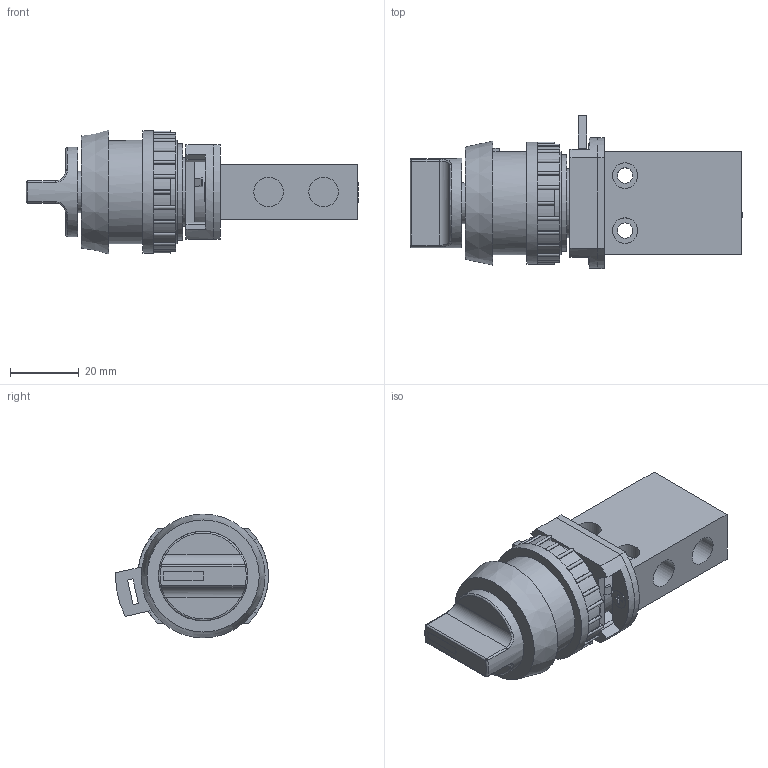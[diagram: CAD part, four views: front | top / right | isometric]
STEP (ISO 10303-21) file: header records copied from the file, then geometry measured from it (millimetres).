
FILE_DESCRIPTION (( 'STEP AP214' ), '1' );
FILE_NAME ('18-T-30-013---T-28-311_Airtec.step', '2018-11-15T13:14:36', ( '' ), ( '' ), 'SwSTEP 2.0', 'SolidWorks 2010', '' );
FILE_SCHEMA (( 'AUTOMOTIVE_DESIGN' ));
Length unit declared in the file: millimetre
Products named in the file (3): 18-T-30-013-Airtec; T-28-311_161115; 18-T-30-013---T-28-311_Airtec
Assembly tree (2 placements, depth 2):
  18-T-30-013---T-28-311_Airtec
    T-28-311_161115
    18-T-30-013-Airtec
Bounding box: 96.5 x 44.48 x 36 mm (x, y, z)
Volume: 52556.2 mm3; surface area: 18863.1 mm2
Topology: 2 solids, 2 shells, 466 faces, 1221 edges, 779 vertices
Faces by surface type: plane 218, cylinder 172, cone 47, torus 17, bspline 12
Full cylindrical faces by diameter (mm): 2.013 x1, 2.459 x4, 2.693 x2, 3 x1, 3.2 x2, 4.5 x2, 4.7 x1, 5.5 x3, 5.7 x2, 6 x1, 7.4 x4, 8.566 x3, 10 x1, 10.5 x1, 12 x1, 16 x1, 20 x1, 20.3 x1, 26 x1, 28 x1, 30 x2, 35.5 x1
Entity records: 15065 total; most frequent: CARTESIAN_POINT 3697, DIRECTION 2452, ORIENTED_EDGE 2282, EDGE_CURVE 1141, AXIS2_PLACEMENT_3D 970, VERTEX_POINT 760, EDGE_LOOP 561, VECTOR 512
